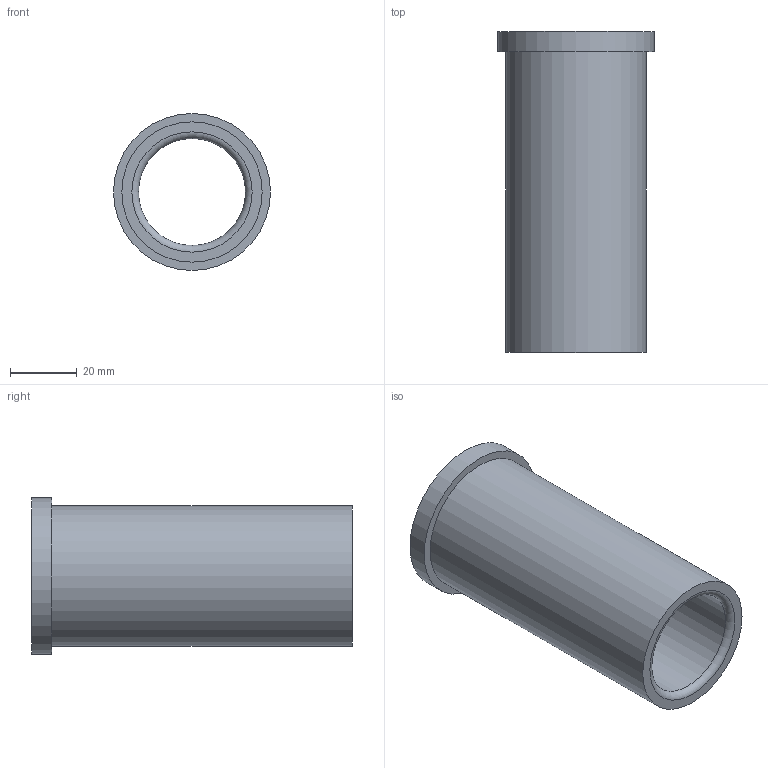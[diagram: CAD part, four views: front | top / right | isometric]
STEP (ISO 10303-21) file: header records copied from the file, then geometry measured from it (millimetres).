
FILE_DESCRIPTION(/* description */ ('STEP AP214'),/* implementation_level */ '2;1');
FILE_NAME(/* name */ '03_12_17950',/* time_stamp */ '2023-06-15T11:35:41+02:00',/* author */ ('License CC BY-ND 4.0'),/* organization */ ('CADENAS'),/* preprocessor_version */ 'ST-DEVELOPER v19.3',/* originating_system */ 'PARTsolutions',/* authorisation */ ' ');
FILE_SCHEMA (('AUTOMOTIVE_DESIGN {1 0 10303 214 3 1 1}'));
Length unit declared in the file: millimetre
Products named in the file (1): VA_Bushing_17950
Bounding box: 47 x 96 x 47 mm (x, y, z)
Volume: 57128.2 mm3; surface area: 24139.1 mm2
Topology: 1 solids, 1 shells, 10 faces, 16 edges, 10 vertices
Faces by surface type: cylinder 4, plane 4, torus 2
Full cylindrical faces by diameter (mm): 32 x1, 32.6 x1, 42 x1, 47 x1
Entity records: 302 total; most frequent: DIRECTION 42, CARTESIAN_POINT 31, AXIS2_PLACEMENT_3D 21, ORIENTED_EDGE 20, EDGE_LOOP 20, FACE_BOUND 20, EDGE_CURVE 10, VERTEX_POINT 10
